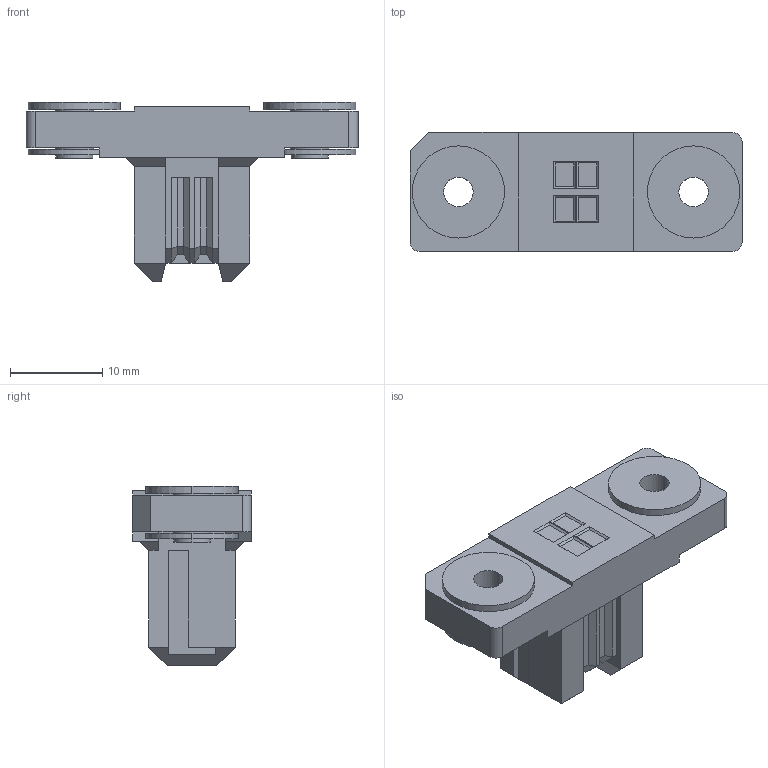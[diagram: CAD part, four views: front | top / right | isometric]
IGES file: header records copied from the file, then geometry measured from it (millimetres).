
Start section: Elysium IGES Interface
Bounding box: 36 x 12.9 x 19.45 mm (x, y, z)
Volume: 3498 mm3; surface area: 2753 mm2
Topology: 1 solids, 1 shells, 172 faces, 414 edges, 258 vertices
Faces by surface type: bspline 172
